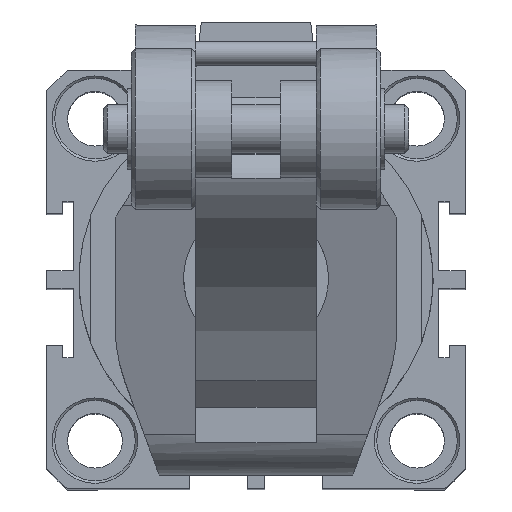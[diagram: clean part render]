
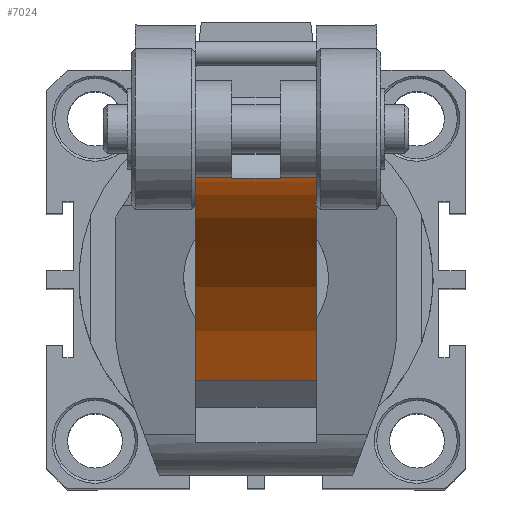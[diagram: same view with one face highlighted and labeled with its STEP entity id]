
A CAD part, top view. The second image highlights one B-rep face of the part: STEP entity #7024.
In plain terms, the highlighted cylindrical face has radius 45 mm (diameter 90 mm), a partial arc.
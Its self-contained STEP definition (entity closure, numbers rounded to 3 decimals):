
#1187=CARTESIAN_POINT('',(8.598,13.512,192.638));
#1188=VERTEX_POINT('',#1187);
#1196=CARTESIAN_POINT('',(8.098,13.512,192.638));
#1197=VERTEX_POINT('',#1196);
#1198=CARTESIAN_POINT('',(8.098,13.512,192.638));
#1199=DIRECTION('',(1.0,0.0,0.0));
#1200=VECTOR('',#1199,0.5);
#1201=LINE('',#1198,#1200);
#1202=EDGE_CURVE('',#1197,#1188,#1201,.T.);
#1257=CARTESIAN_POINT('',(8.098,13.601,193.229));
#1258=VERTEX_POINT('',#1257);
#1266=CARTESIAN_POINT('',(8.098,13.601,193.229));
#1267=CARTESIAN_POINT('',(8.262,13.572,193.032));
#1268=CARTESIAN_POINT('',(8.429,13.543,192.835));
#1269=CARTESIAN_POINT('',(8.598,13.512,192.638));
#1270=B_SPLINE_CURVE_WITH_KNOTS('',3,(#1266,#1267,#1268,#1269),.UNSPECIFIED.,.F.,.U.,(4,4),(3.429,3.512),.UNSPECIFIED.);
#1271=EDGE_CURVE('',#1188,#1258,#1270,.F.);
#1299=CARTESIAN_POINT('',(-7.402,13.512,192.638));
#1300=VERTEX_POINT('',#1299);
#1308=CARTESIAN_POINT('',(-6.902,13.601,193.229));
#1309=VERTEX_POINT('',#1308);
#1310=CARTESIAN_POINT('',(-7.402,13.512,192.638));
#1311=CARTESIAN_POINT('',(-7.233,13.543,192.835));
#1312=CARTESIAN_POINT('',(-7.066,13.572,193.032));
#1313=CARTESIAN_POINT('',(-6.902,13.601,193.229));
#1314=B_SPLINE_CURVE_WITH_KNOTS('',3,(#1310,#1311,#1312,#1313),.UNSPECIFIED.,.F.,.U.,(4,4),(1.581,1.664),.UNSPECIFIED.);
#1315=EDGE_CURVE('',#1300,#1309,#1314,.T.);
#1333=CARTESIAN_POINT('',(-6.902,14.055,200.133));
#1334=VERTEX_POINT('',#1333);
#1335=CARTESIAN_POINT('',(-6.902,-30.942,199.629));
#1336=DIRECTION('',(-1.0,0.,0.));
#1337=DIRECTION('',(0.,0.439,-0.898));
#1338=AXIS2_PLACEMENT_3D('',#1335,#1336,#1337);
#1339=CIRCLE('',#1338,45.0);
#1340=EDGE_CURVE('',#1334,#1309,#1339,.T.);
#1421=CARTESIAN_POINT('',(-6.902,13.512,192.638));
#1422=VERTEX_POINT('',#1421);
#1430=CARTESIAN_POINT('',(-7.402,13.512,192.638));
#1431=DIRECTION('',(1.0,0.,0.));
#1432=VECTOR('',#1431,0.5);
#1433=LINE('',#1430,#1432);
#1434=EDGE_CURVE('',#1300,#1422,#1433,.T.);
#1845=CARTESIAN_POINT('',(-2.402,13.966,196.747));
#1846=VERTEX_POINT('',#1845);
#1915=CARTESIAN_POINT('',(-2.402,14.055,200.133));
#1916=VERTEX_POINT('',#1915);
#1924=CARTESIAN_POINT('',(-2.402,-30.942,199.629));
#1925=DIRECTION('',(1.0,0.,0.));
#1926=DIRECTION('',(0.,0.439,-0.898));
#1927=AXIS2_PLACEMENT_3D('',#1924,#1925,#1926);
#1928=CIRCLE('',#1927,45.0);
#1929=EDGE_CURVE('',#1846,#1916,#1928,.T.);
#1952=CARTESIAN_POINT('',(3.598,14.055,200.133));
#1953=VERTEX_POINT('',#1952);
#2020=CARTESIAN_POINT('',(3.598,13.966,196.747));
#2021=VERTEX_POINT('',#2020);
#2029=CARTESIAN_POINT('',(3.598,-30.942,199.629));
#2030=DIRECTION('',(-1.0,0.,0.));
#2031=DIRECTION('',(0.,0.439,-0.898));
#2032=AXIS2_PLACEMENT_3D('',#2029,#2030,#2031);
#2033=CIRCLE('',#2032,45.0);
#2034=EDGE_CURVE('',#1953,#2021,#2033,.T.);
#6955=CARTESIAN_POINT('',(-2.402,14.055,200.133));
#6956=DIRECTION('',(-1.0,0.0,0.0));
#6957=VECTOR('',#6956,4.5);
#6958=LINE('',#6955,#6957);
#6959=EDGE_CURVE('',#1916,#1334,#6958,.T.);
#6964=CARTESIAN_POINT('',(0.598,-30.942,199.629));
#6965=DIRECTION('',(1.0,0.,0.0));
#6966=DIRECTION('',(0.,0.439,-0.898));
#6967=AXIS2_PLACEMENT_3D('',#6964,#6965,#6966);
#6968=CYLINDRICAL_SURFACE('',#6967,45.0);
#6969=ORIENTED_EDGE('',*,*,#1929,.T.);
#6970=ORIENTED_EDGE('',*,*,#6959,.T.);
#6971=ORIENTED_EDGE('',*,*,#1340,.T.);
#6972=ORIENTED_EDGE('',*,*,#1315,.F.);
#6973=ORIENTED_EDGE('',*,*,#1434,.T.);
#6974=CARTESIAN_POINT('',(-6.902,-11.181,159.2));
#6975=VERTEX_POINT('',#6974);
#6976=CARTESIAN_POINT('',(-6.902,-30.942,199.629));
#6977=DIRECTION('',(-1.0,0.,0.));
#6978=DIRECTION('',(0.,0.439,-0.898));
#6979=AXIS2_PLACEMENT_3D('',#6976,#6977,#6978);
#6980=CIRCLE('',#6979,45.0);
#6981=EDGE_CURVE('',#1422,#6975,#6980,.T.);
#6982=ORIENTED_EDGE('',*,*,#6981,.T.);
#6983=CARTESIAN_POINT('',(8.098,-11.181,159.2));
#6984=VERTEX_POINT('',#6983);
#6985=CARTESIAN_POINT('',(8.098,-11.181,159.2));
#6986=DIRECTION('',(-1.0,0.0,0.0));
#6987=VECTOR('',#6986,15.0);
#6988=LINE('',#6985,#6987);
#6989=EDGE_CURVE('',#6984,#6975,#6988,.T.);
#6990=ORIENTED_EDGE('',*,*,#6989,.F.);
#6991=CARTESIAN_POINT('',(8.098,-30.942,199.629));
#6992=DIRECTION('',(1.0,0.,0.));
#6993=DIRECTION('',(0.,0.439,-0.898));
#6994=AXIS2_PLACEMENT_3D('',#6991,#6992,#6993);
#6995=CIRCLE('',#6994,45.0);
#6996=EDGE_CURVE('',#6984,#1197,#6995,.T.);
#6997=ORIENTED_EDGE('',*,*,#6996,.T.);
#6998=ORIENTED_EDGE('',*,*,#1202,.T.);
#6999=ORIENTED_EDGE('',*,*,#1271,.T.);
#7000=CARTESIAN_POINT('',(8.098,14.055,200.133));
#7001=VERTEX_POINT('',#7000);
#7002=CARTESIAN_POINT('',(8.098,-30.942,199.629));
#7003=DIRECTION('',(1.0,0.,0.));
#7004=DIRECTION('',(0.,0.439,-0.898));
#7005=AXIS2_PLACEMENT_3D('',#7002,#7003,#7004);
#7006=CIRCLE('',#7005,45.0);
#7007=EDGE_CURVE('',#1258,#7001,#7006,.T.);
#7008=ORIENTED_EDGE('',*,*,#7007,.T.);
#7009=CARTESIAN_POINT('',(8.098,14.055,200.133));
#7010=DIRECTION('',(-1.0,0.0,0.0));
#7011=VECTOR('',#7010,4.5);
#7012=LINE('',#7009,#7011);
#7013=EDGE_CURVE('',#7001,#1953,#7012,.T.);
#7014=ORIENTED_EDGE('',*,*,#7013,.T.);
#7015=ORIENTED_EDGE('',*,*,#2034,.T.);
#7016=CARTESIAN_POINT('',(3.598,13.966,196.747));
#7017=DIRECTION('',(-1.0,0.0,0.0));
#7018=VECTOR('',#7017,6.);
#7019=LINE('',#7016,#7018);
#7020=EDGE_CURVE('',#2021,#1846,#7019,.T.);
#7021=ORIENTED_EDGE('',*,*,#7020,.T.);
#7022=EDGE_LOOP('',(#6969,#6970,#6971,#6972,#6973,#6982,#6990,#6997,#6998,#6999,#7008,#7014,#7015,#7021));
#7023=FACE_OUTER_BOUND('',#7022,.T.);
#7024=ADVANCED_FACE('',(#7023),#6968,.F.);
